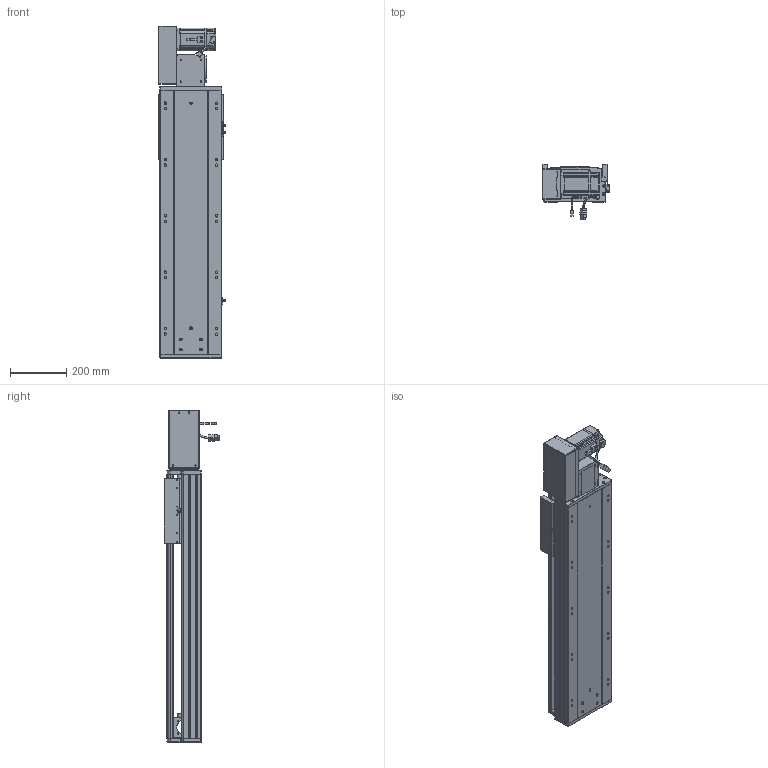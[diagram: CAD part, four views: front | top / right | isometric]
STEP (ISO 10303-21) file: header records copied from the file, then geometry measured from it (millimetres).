
FILE_DESCRIPTION (( 'STEP AP203' ), '1' );
FILE_NAME ('RY220-T-300-LK.SLDASM_600.step', '2022-07-25T08:13:22', ( '' ), ( '' ), 'SwSTEP 2.0', 'SolidWorks 2016', '' );
FILE_SCHEMA (( 'CONFIG_CONTROL_DESIGN' ));
Length unit declared in the file: millimetre
Products named in the file (14): RY220-俋离672覜茼んえ; RY220-同步轮副支撑座6304×2; RY220-T-300-奻裔啣_600; 滅袉蝶18-15; RY220圉猾敕々湍臏賑輸; 110A-T-肮祭謫釱傷裔; 怢湛750W_ECMA-CX0807ES; RY220-T菁釱-300_600; RY220-T-300-LK.SLDASM_600; RY220翋肮祭謫裔啣; 覜茼ん672; RY220-T-湍謫欶(鍼踢); RY220翋肮祭謫釱; RY220-T-蛌殏萇儂假蚾啣(750W)
Assembly tree (18 placements, depth 2):
  RY220-T-300-LK.SLDASM_600
    RY220-T菁釱-300_600
    RY220翋肮祭謫釱
    覜茼ん672  x3
    RY220圉猾敕々湍臏賑輸
    RY220-T-300-奻裔啣_600
    RY220-俋离672覜茼んえ
    滅袉蝶18-15  x3
    RY220翋肮祭謫裔啣  x2
    110A-T-肮祭謫釱傷裔
    怢湛750W_ECMA-CX0807ES
    RY220-T-湍謫欶(鍼踢)
    RY220-T-蛌殏萇儂假蚾啣(750W)
    RY220-同步轮副支撑座6304×2
Bounding box: 239.7 x 198.77 x 1179 mm (x, y, z)
Volume: 9673697.2 mm3; surface area: 2736095.2 mm2
Topology: 19 solids, 19 shells, 2540 faces, 6999 edges, 4456 vertices
Faces by surface type: cylinder 1168, plane 1069, cone 221, bspline 56, sphere 16, torus 10
Entity records: 84355 total; most frequent: CARTESIAN_POINT 24123, ORIENTED_EDGE 12538, DIRECTION 11772, EDGE_CURVE 6269, AXIS2_PLACEMENT_3D 4134, VERTEX_POINT 4080, VECTOR 3504, LINE 3504
